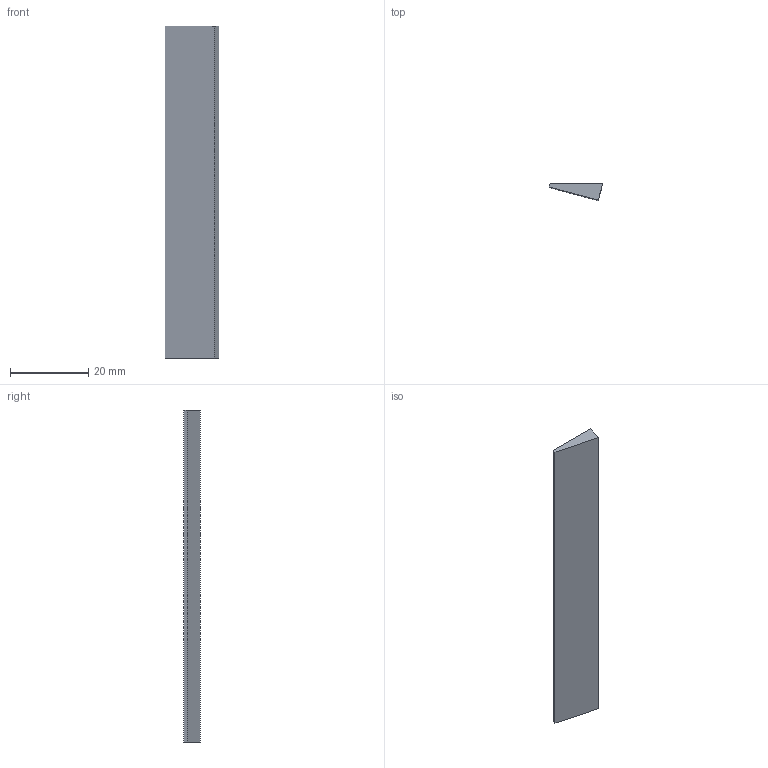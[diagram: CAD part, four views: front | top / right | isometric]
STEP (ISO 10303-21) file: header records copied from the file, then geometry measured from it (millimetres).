
FILE_DESCRIPTION(('FreeCAD Model'),'2;1');
FILE_NAME('Open CASCADE Shape Model','2026-11-05T18:53:51',('FreeCAD'),( 'FreeCAD'),'Open CASCADE STEP processor 7.8','FreeCAD','Unknown');
FILE_SCHEMA(('AUTOMOTIVE_DESIGN { 1 0 10303 214 1 1 1 1 }'));
Length unit declared in the file: millimetre
Products named in the file (1): Open CASCADE STEP translator 7.8 36
Bounding box: 13.72 x 4.35 x 85 mm (x, y, z)
Volume: 3038.7 mm3; surface area: 2788.3 mm2
Topology: 1 solids, 1 shells, 6 faces, 12 edges, 8 vertices
Faces by surface type: plane 6
Entity records: 166 total; most frequent: CARTESIAN_POINT 27, DIRECTION 26, ORIENTED_EDGE 24, EDGE_CURVE 12, LINE 12, VECTOR 12, VERTEX_POINT 8, AXIS2_PLACEMENT_3D 7
